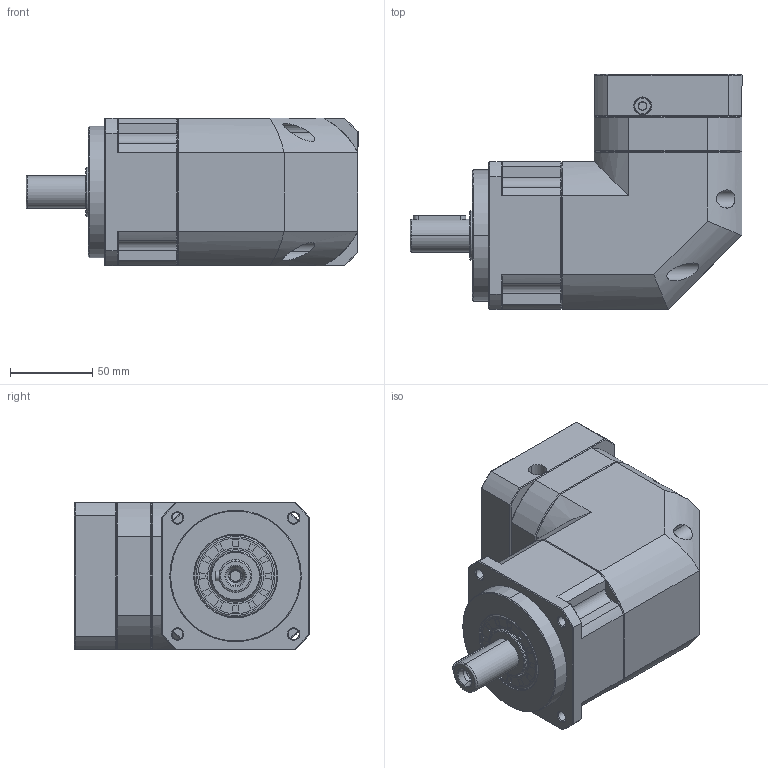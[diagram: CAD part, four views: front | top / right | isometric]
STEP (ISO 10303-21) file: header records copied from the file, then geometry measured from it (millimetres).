
FILE_DESCRIPTION (( 'STEP AP214' ), '1' );
FILE_NAME ('ZPBR090-D20-L1-P1-19-80-100-M6.step', '2024-06-07T18:29:22', ( 'Windows 蚚誧' ), ( 'Organization' ), 'SwSTEP 2.0', 'SolidWorks 2016', '' );
FILE_SCHEMA (( 'AUTOMOTIVE_DESIGN' ));
Length unit declared in the file: millimetre
Products named in the file (1): ZPBR090-D20-L1-P1-19-80-100-M6
Bounding box: 202 x 143 x 90 mm (x, y, z)
Surface area: 134009.3 mm2 (no closed solid volume)
Topology: 0 solids, 32 shells, 1820 faces, 4944 edges, 3179 vertices
Faces by surface type: plane 974, bspline 373, cone 240, cylinder 216, torus 17
Entity records: 93520 total; most frequent: CARTESIAN_POINT 47042, ORIENTED_EDGE 9708, DIRECTION 7547, EDGE_CURVE 4890, VECTOR 3249, LINE 3249, VERTEX_POINT 3146, AXIS2_PLACEMENT_3D 2149
